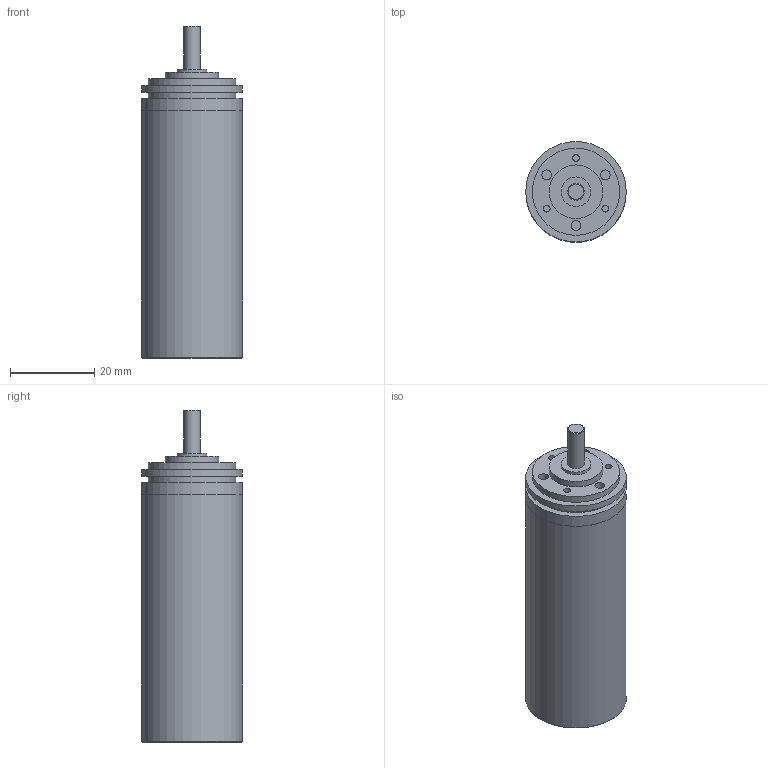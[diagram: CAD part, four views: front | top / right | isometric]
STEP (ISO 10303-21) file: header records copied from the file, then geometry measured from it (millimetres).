
FILE_DESCRIPTION(/* description */ (''),/* implementation_level */ '2;1');
FILE_NAME(/* name */ '22-2K_9.stp',/* time_stamp */ '2016-08-26T11:34:08+02:00',/* author */ ('DR. FRITZ FAULHABER GmbH & Co. KG'),/* organization */ ('DR. FRITZ FAULHABER GmbH & Co. KG'),/* preprocessor_version */ 'ST-DEVELOPER v16',/* originating_system */ 'SIEMENS PLM Software NX 10.0',/* authorisation */ '');
FILE_SCHEMA (('AUTOMOTIVE_DESIGN { 1 0 10303 214 3 1 1 1 }'));
Length unit declared in the file: millimetre
Products named in the file (1): H00000849_A
Bounding box: 23.8 x 23.8 x 78.6 mm (x, y, z)
Volume: 21507.2 mm3; surface area: 7903.4 mm2
Topology: 1 solids, 1 shells, 42 faces, 65 edges, 43 vertices
Faces by surface type: plane 20, cylinder 19, cone 3
Full cylindrical faces by diameter (mm): 1.6 x3, 2.329 x3, 3.5 x1, 4 x1, 4.5 x1, 7 x2, 12.7 x1, 20.63 x2, 22 x1, 23.79 x1, 23.8 x3
Entity records: 858 total; most frequent: DIRECTION 168, CARTESIAN_POINT 125, AXIS2_PLACEMENT_3D 84, EDGE_LOOP 82, ORIENTED_EDGE 82, FACE_BOUND 74, ADVANCED_FACE 42, VERTEX_POINT 41
